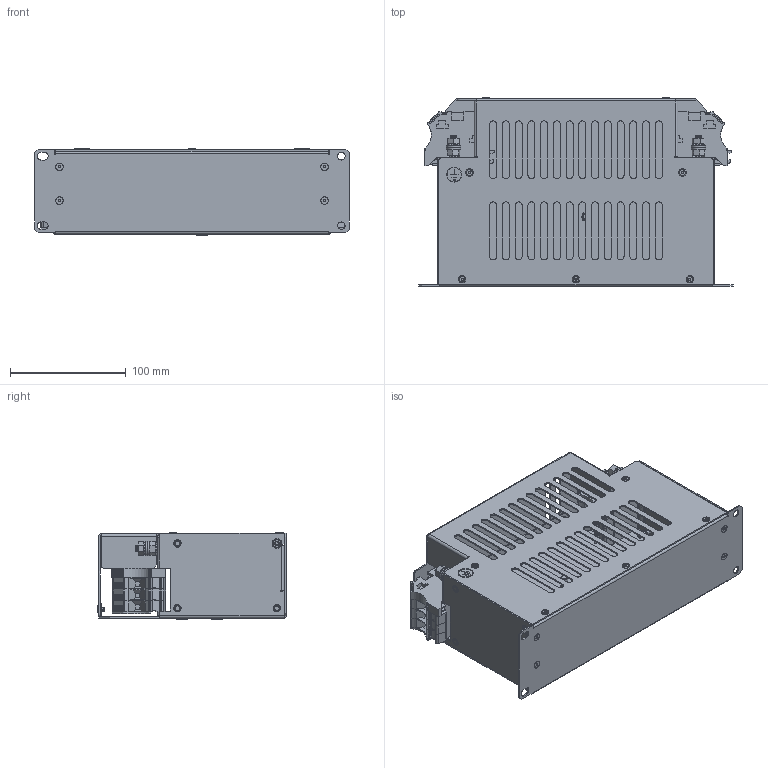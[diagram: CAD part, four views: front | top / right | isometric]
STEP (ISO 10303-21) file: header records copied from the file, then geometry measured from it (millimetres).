
FILE_DESCRIPTION (( 'STEP AP214' ), '1' );
FILE_NAME ('KMF336-KMF350.STEP', '2016-04-26T09:03:36', ( '' ), ( '' ), 'SwSTEP 2.0', 'SolidWorks 2014', '' );
FILE_SCHEMA (( 'AUTOMOTIVE_DESIGN' ));
Length unit declared in the file: millimetre
Products named in the file (21): PEM SSS-4mm-12 ZI_PEM SSS-4mm-12 ZI; FIX139; SCR230; M4 EXT WSH_M4; KMF336-KMF350; M4 X 12 PAN_91-0001-47017; NUT63; WSH170; WSH129; BOX676_Dev with lid and TER; FIX119; TER729 (1); TER649 (1); TER649 COVER; PEM SO-M4-12 ZI--S_PEM SO-M4-12 ZI--S; PEM HFH-M6-12 X--N_PEM HFH-M6-12 X--N; BOX676LIDSLDASM_Development Flat; Earth punch; BOX676LID_DEVELOPMENT; BOX676_Dev; PEM FH-M6-20 ZI--S_PEM FH-M6-20 ZI--S
Assembly tree (59 placements, depth 4):
  KMF336-KMF350
    FIX139  x5
    BOX676_Dev with lid and TER
      PEM SSS-4mm-12 ZI_PEM SSS-4mm-12 ZI  x6
      PEM FH-M6-20 ZI--S_PEM FH-M6-20 ZI--S  x2
      BOX676_Dev
      BOX676LIDSLDASM_Development Flat
        BOX676LID_DEVELOPMENT
        Earth punch
      PEM HFH-M6-12 X--N_PEM HFH-M6-12 X--N  x2
      PEM SO-M4-12 ZI--S_PEM SO-M4-12 ZI--S  x2
      TER649 COVER  x2
      TER649 (1)  x6
      TER729 (1)  x2
      FIX139  x7
      FIX119  x4
    WSH129  x4
    WSH170  x4
    NUT63  x4
    SCR230  x2
      M4 X 12 PAN_91-0001-47017
      M4 EXT WSH_M4
Bounding box: 272 x 163 x 75.47 mm (x, y, z)
Volume: 278825.2 mm3; surface area: 340060.2 mm2
Topology: 57 solids, 57 shells, 4944 faces, 13582 edges, 8834 vertices
Faces by surface type: plane 2824, cylinder 1440, cone 580, torus 96, sphere 4
Entity records: 57386 total; most frequent: CARTESIAN_POINT 10142, DIRECTION 9804, ORIENTED_EDGE 9558, EDGE_CURVE 4779, AXIS2_PLACEMENT_3D 3292, VECTOR 3220, LINE 3220, VERTEX_POINT 3070
